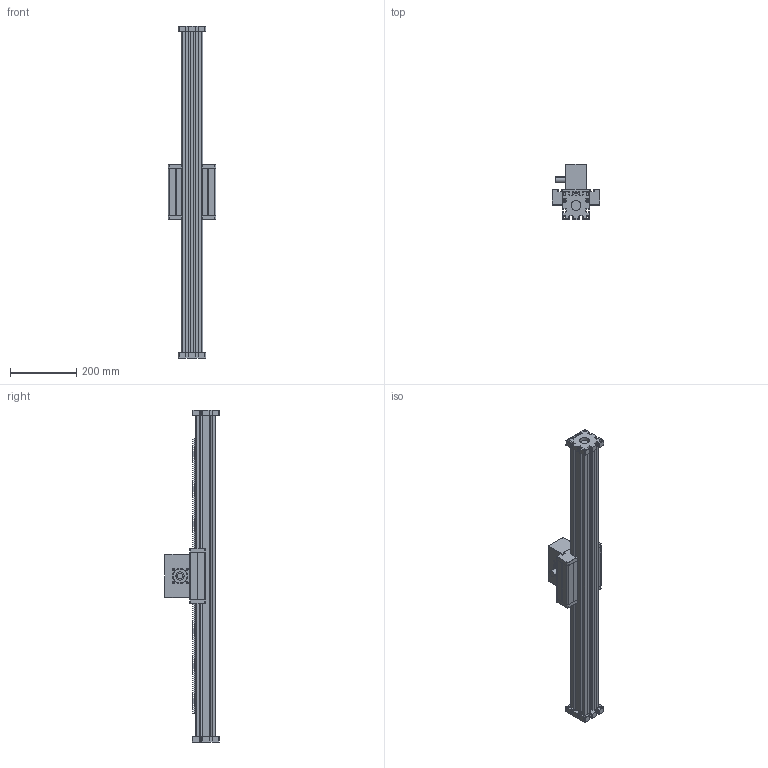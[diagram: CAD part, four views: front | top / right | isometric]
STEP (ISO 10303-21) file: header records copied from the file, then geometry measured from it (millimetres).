
FILE_DESCRIPTION (( 'STEP AP214' ), '1' );
FILE_NAME ('ELDZA60.STEP', '2022-06-28T09:47:29', ( '' ), ( '' ), 'SwSTEP 2.0', 'SolidWorks 2020', '' );
FILE_SCHEMA (( 'AUTOMOTIVE_DESIGN' ));
Length unit declared in the file: millimetre
Products named in the file (5): ELDZA60; drive block^ELDZA60_shaft pos. 1; bearing block^ELDZA60_2x guide rods; profile^ELDZA60_2x guide rods; carriage^ELDZA60_carriage 0
Assembly tree (5 placements, depth 2):
  ELDZA60
    profile^ELDZA60_2x guide rods
    carriage^ELDZA60_carriage 0
    drive block^ELDZA60_shaft pos. 1
    bearing block^ELDZA60_2x guide rods  x2
Bounding box: 144 x 165 x 1000 mm (x, y, z)
Volume: 4825548.3 mm3; surface area: 699516.3 mm2
Topology: 11 solids, 11 shells, 1236 faces, 3545 edges, 2346 vertices
Faces by surface type: plane 1072, cylinder 144, torus 8, cone 8, sphere 4
Entity records: 33734 total; most frequent: CARTESIAN_POINT 6003, ORIENTED_EDGE 5886, DIRECTION 5258, EDGE_CURVE 2943, LINE 2688, VECTOR 2688, VERTEX_POINT 1950, AXIS2_PLACEMENT_3D 1285
